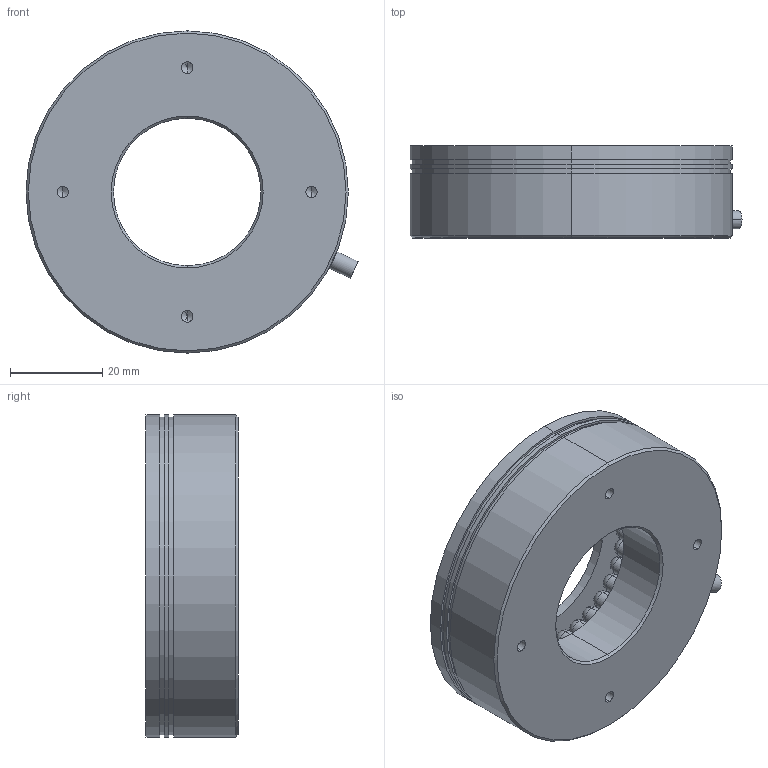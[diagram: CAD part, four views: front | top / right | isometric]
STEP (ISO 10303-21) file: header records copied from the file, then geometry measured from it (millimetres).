
FILE_DESCRIPTION (( 'STEP AP203' ), '1' );
FILE_NAME ('RI7000-W.STEP', '2021-09-30T02:54:27', ( 'Windows 蚚誧' ), ( 'Microsoft' ), 'SwSTEP 2.0', 'SolidWorks 2016', '' );
FILE_SCHEMA (( 'CONFIG_CONTROL_DESIGN' ));
Length unit declared in the file: millimetre
Products named in the file (1): RI7000-W
Bounding box: 72.1 x 20 x 70 mm (x, y, z)
Volume: 51971.4 mm3; surface area: 23447.1 mm2
Topology: 1 solids, 2 shells, 472 faces, 1372 edges, 800 vertices
Faces by surface type: cylinder 238, sphere 210, cone 14, plane 10
Entity records: 12613 total; most frequent: DIRECTION 2574, CARTESIAN_POINT 2061, ORIENTED_EDGE 1884, AXIS2_PLACEMENT_3D 1161, EDGE_CURVE 942, CIRCLE 688, VERTEX_POINT 590, EDGE_LOOP 590
